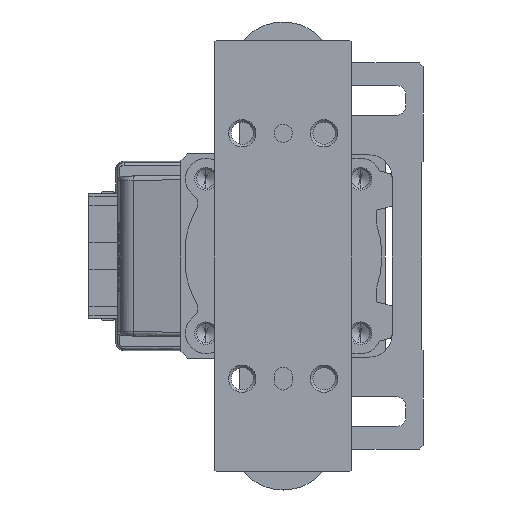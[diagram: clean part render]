
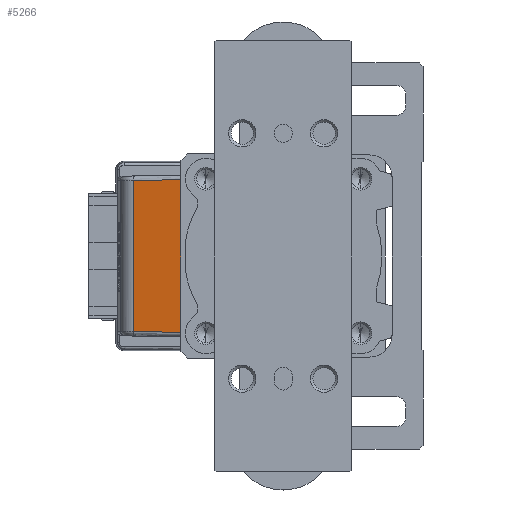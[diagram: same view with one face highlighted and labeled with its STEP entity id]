
A CAD part, left-side view. The second image highlights one B-rep face of the part: STEP entity #5266.
In plain terms, the highlighted planar face has unit normal (-0.985, 0.174, 0) as drawn and (0, 0.174, 0.985) by its records, which use the part's own axes.
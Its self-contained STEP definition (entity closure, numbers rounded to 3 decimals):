
#314 = EDGE_CURVE ( 'NONE', #8021, #7138, #493, .T. ) ;
#493 = LINE ( 'NONE', #39888, #19138 ) ;
#914 = EDGE_CURVE ( 'NONE', #7138, #6623, #2637, .T. ) ;
#2637 = LINE ( 'NONE', #5450, #20366 ) ;
#5266 = ADVANCED_FACE ( 'NONE', ( #15477 ), #38913, .F. ) ;
#5281 = CARTESIAN_POINT ( 'NONE',  ( -16.825, 21., -38.277 ) ) ;
#5450 = CARTESIAN_POINT ( 'NONE',  ( 0., 21., -38.277 ) ) ;
#5783 = CARTESIAN_POINT ( 'NONE',  ( 0., 21.26, -38.323 ) ) ;
#6548 = EDGE_CURVE ( 'NONE', #12283, #8021, #38819, .T. ) ;
#6623 = VERTEX_POINT ( 'NONE', #17758 ) ;
#7138 = VERTEX_POINT ( 'NONE', #5281 ) ;
#8021 = VERTEX_POINT ( 'NONE', #15277 ) ;
#10795 = DIRECTION ( 'NONE',  ( -0.017, -0.985, 0.174 ) ) ;
#12283 = VERTEX_POINT ( 'NONE', #24824 ) ;
#14711 = LINE ( 'NONE', #27882, #28294 ) ;
#14886 = EDGE_CURVE ( 'NONE', #6623, #12283, #14711, .T. ) ;
#15277 = CARTESIAN_POINT ( 'NONE',  ( -16.617, 32.922, -40.379 ) ) ;
#15337 = ORIENTED_EDGE ( 'NONE', *, *, #6548, .T. ) ;
#15477 = FACE_OUTER_BOUND ( 'NONE', #25893, .T. ) ;
#15596 = DIRECTION ( 'NONE',  ( -1., 0., 0. ) ) ;
#16124 = DIRECTION ( 'NONE',  ( 1., 0., 0. ) ) ;
#17758 = CARTESIAN_POINT ( 'NONE',  ( 16.825, 21., -38.277 ) ) ;
#19138 = VECTOR ( 'NONE', #10795, 1000. ) ;
#20366 = VECTOR ( 'NONE', #31715, 1000. ) ;
#22199 = DIRECTION ( 'NONE',  ( 0., -0.174, -0.985 ) ) ;
#23208 = ORIENTED_EDGE ( 'NONE', *, *, #314, .T. ) ;
#23640 = VECTOR ( 'NONE', #15596, 1000. ) ;
#24824 = CARTESIAN_POINT ( 'NONE',  ( 16.617, 32.922, -40.379 ) ) ;
#25893 = EDGE_LOOP ( 'NONE', ( #15337, #23208, #35570, #36690 ) ) ;
#27882 = CARTESIAN_POINT ( 'NONE',  ( 16.617, 32.905, -40.376 ) ) ;
#28294 = VECTOR ( 'NONE', #41001, 1000. ) ;
#31715 = DIRECTION ( 'NONE',  ( 1., 0., 0. ) ) ;
#33139 = AXIS2_PLACEMENT_3D ( 'NONE', #5783, #22199, #16124 ) ;
#35570 = ORIENTED_EDGE ( 'NONE', *, *, #914, .T. ) ;
#36690 = ORIENTED_EDGE ( 'NONE', *, *, #14886, .T. ) ;
#38007 = CARTESIAN_POINT ( 'NONE',  ( -17.568, 32.922, -40.379 ) ) ;
#38819 = LINE ( 'NONE', #38007, #23640 ) ;
#38913 = PLANE ( 'NONE',  #33139 ) ;
#39888 = CARTESIAN_POINT ( 'NONE',  ( -16.825, 20.983, -38.274 ) ) ;
#41001 = DIRECTION ( 'NONE',  ( -0.017, 0.985, -0.174 ) ) ;
